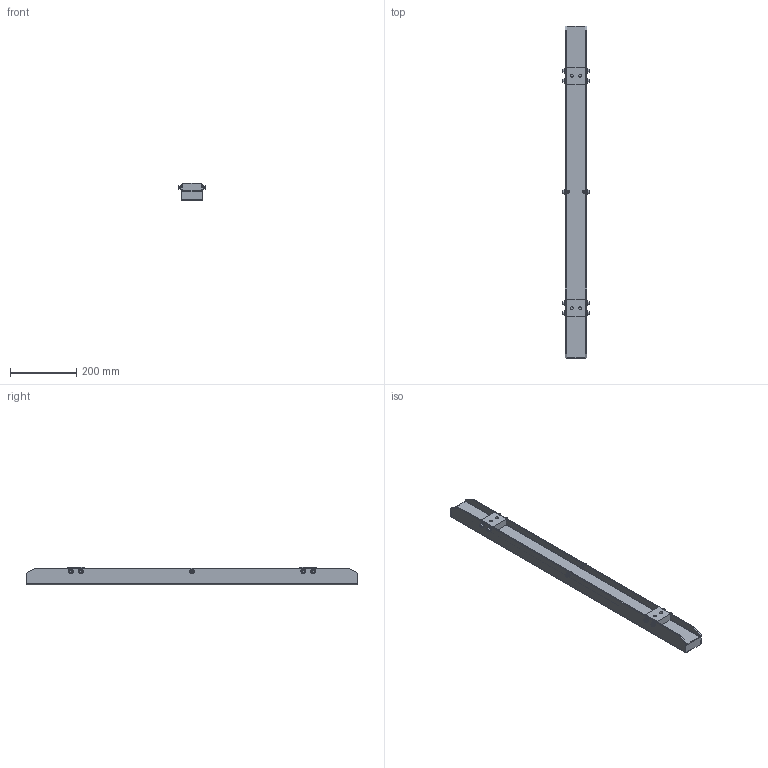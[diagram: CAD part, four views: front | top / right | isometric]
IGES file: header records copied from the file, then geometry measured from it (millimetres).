
Global section: file name: SPR-065Wx050Hx1000L; native system: unknown; preprocessor: unknown; author: unknown; organization: unknown; date: 20221219.154351; units: millimetre
Bounding box: 81.6 x 1000 x 52 mm (x, y, z)
Volume: 645960.8 mm3; surface area: 565768 mm2
Topology: 26 solids, 26 shells, 348 faces, 850 edges, 574 vertices
Faces by surface type: bspline 348
